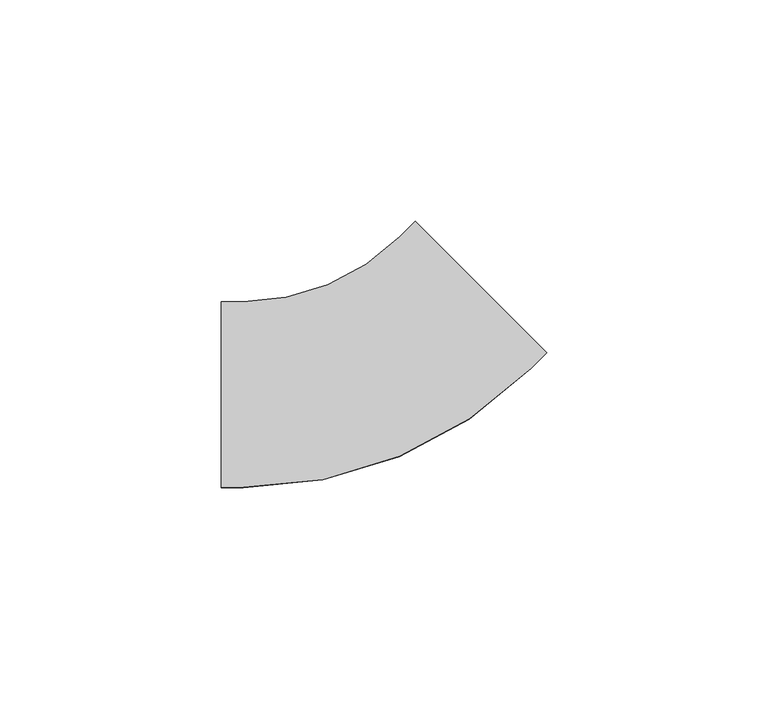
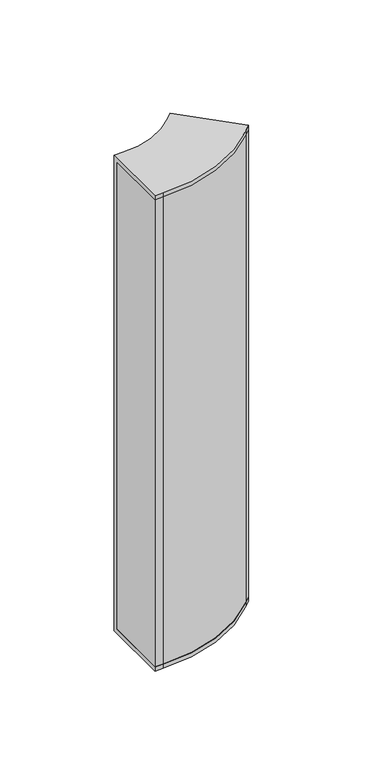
"""IFC4 building model written with IfcOpenShell, lengths in millimetres: cable carrier fitting geometry, BAKS_Vertical bend LU : LLJ_H42."""

from ifc_helpers import new_model, si_unit, point, frame, frame_2d, origin, place, context, project, spatial, polyline, circle_curve, trimmed, segment, composite_curve, outline, extrude, source, transform, mapped, element, save
from ifc_brep_helpers import plane_surface, cylinder_surface, revolved_surface, advanced_brep


def cable_carrier_fitting_68112528(model_context):
    return source(origin(), model_context, "Body", "SolidModel", [
        advanced_brep(
        [(-34.4091629, -21.0, 150.0), (-34.4091629, 21.0, 150.0), (-34.4091629, 21.0, -150.0), (-34.4091629, -21.0, -150.0), (-34.4091629, -21.0, -147.46), (-34.4091629, 18.46, -147.46), (-34.4091629, 18.46, 147.46), (-34.4091629, -21.0, 147.46), (39.1801948, 9.48171, 150.0), (39.1801948, 9.48171, 147.46), (11.2777613, 37.3841436, 147.46), (11.2777613, 37.3841436, -147.46), (39.1801948, 9.48171, -147.46), (39.1801948, 9.48171, -150.0), (9.48171, 39.1801948, -150.0), (9.48171, 39.1801948, 150.0), (-29.4091629, -21.0, 150.0), (35.6446609, 5.9461761, 150.0), (5.9461761, 35.6446609, 150.0), (-29.4091629, 21.0, 150.0), (-29.4091629, 21.0, -150.0), (5.9461761, 35.6446609, -150.0), (35.6446609, 5.9461761, -150.0), (-29.4091629, -21.0, -150.0), (-29.4091629, -21.0, -147.46), (35.6446609, 5.9461761, -147.46), (7.7422273, 33.8486097, -147.46), (-29.4091629, 18.46, -147.46), (-29.4091629, 18.46, 147.46), (7.7422273, 33.8486097, 147.46), (35.6446609, 5.9461761, 147.46), (-29.4091629, -21.0, 147.46)],
        [
            (0, 1),
            (1, 2),
            (2, 3),
            (3, 4),
            (4, 5),
            (5, 6),
            (6, 7),
            (7, 0),
            (8, 9),
            (9, 10),
            (10, 11),
            (11, 12),
            (12, 13),
            (13, 14),
            (14, 15),
            (15, 8),
            (0, 16),
            (16, 17, circle_curve(frame((-29.4091629, 71.0, 150.0), z_axis=(0.0, 0.0, 1.0), x_axis=(0.0, -1.0, 0.0)), 92.0)),
            (17, 8),
            (15, 18),
            (18, 19, circle_curve(frame((-29.4091629, 71.0, 150.0), z_axis=(0.0, 0.0, -1.0), x_axis=(0.0, -1.0, 0.0)), 50.0)),
            (19, 1),
            (19, 20),
            (20, 2),
            (20, 21, circle_curve(frame((-29.4091629, 71.0, -150.0), z_axis=(0.0, 0.0, 1.0), x_axis=(0.0, -1.0, 0.0)), 50.0)),
            (21, 14),
            (13, 22),
            (22, 23, circle_curve(frame((-29.4091629, 71.0, -150.0), z_axis=(0.0, 0.0, -1.0), x_axis=(0.0, -1.0, 0.0)), 92.0)),
            (23, 3),
            (23, 24),
            (24, 4),
            (24, 25, circle_curve(frame((-29.4091629, 71.0, -147.46), z_axis=(0.0, 0.0, 1.0), x_axis=(0.0, -1.0, 0.0)), 92.0)),
            (25, 12),
            (11, 26),
            (26, 27, circle_curve(frame((-29.4091629, 71.0, -147.46), z_axis=(0.0, 0.0, -1.0), x_axis=(0.0, -1.0, 0.0)), 52.54)),
            (27, 5),
            (27, 28),
            (28, 6),
            (28, 29, circle_curve(frame((-29.4091629, 71.0, 147.46), z_axis=(0.0, 0.0, 1.0), x_axis=(0.0, -1.0, 0.0)), 52.54)),
            (29, 10),
            (9, 30),
            (30, 31, circle_curve(frame((-29.4091629, 71.0, 147.46), z_axis=(0.0, 0.0, -1.0), x_axis=(0.0, -1.0, 0.0)), 92.0)),
            (31, 7),
            (31, 16),
            (18, 21),
            (22, 25),
            (26, 29),
            (30, 17),
        ],
        [
            plane_surface(frame((-34.4091629, 0.0, 0.0), z_axis=(-1.0, 0.0, 0.0), x_axis=(0.0, 0.0, 1.0))),
            plane_surface(frame((24.3309524, 24.3309524, 0.0), z_axis=(0.7071067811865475, 0.7071067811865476, 0.0), x_axis=(0.0, 0.0, 1.0))),
            plane_surface(frame((-34.4091629, -21.0, 150.0), z_axis=(0.0, 0.0, 1.0), x_axis=(1.0, 0.0, 0.0))),
            plane_surface(frame((-34.4091629, 21.0, 150.0), z_axis=(0.0, 1.0, 0.0), x_axis=(1.0, 0.0, 0.0))),
            plane_surface(frame((-34.4091629, 21.0, -150.0), z_axis=(0.0, 0.0, -1.0), x_axis=(1.0, 0.0, 0.0))),
            plane_surface(frame((-34.4091629, -21.0, -150.0), z_axis=(0.0, -1.0, 0.0), x_axis=(1.0, 0.0, 0.0))),
            plane_surface(frame((-34.4091629, -21.0, -147.46), z_axis=(0.0, 0.0, 1.0), x_axis=(1.0, 0.0, 0.0))),
            plane_surface(frame((-34.4091629, 18.46, -147.46), z_axis=(0.0, -1.0, 0.0), x_axis=(1.0, 0.0, 0.0))),
            plane_surface(frame((-34.4091629, 18.46, 147.46), z_axis=(0.0, 0.0, -1.0), x_axis=(1.0, 0.0, 0.0))),
            plane_surface(frame((-34.4091629, -21.0, 147.46), z_axis=(0.0, -1.0, 0.0), x_axis=(1.0, 0.0, 0.0))),
            revolved_surface(polyline([(-29.4091629, 21.0, 150.0), (-29.4091629, 21.0, -150.0)]), (-29.4091629, 71.0, 0.0), (0.0, 0.0, 1.0)),
            cylinder_surface(frame((-29.4091629, 71.0, 0.0), z_axis=(0.0, 0.0, 1.0), x_axis=(0.0, -1.0, 0.0)), 92.0),
            cylinder_surface(frame((-29.4091629, 71.0, 0.0), z_axis=(0.0, 0.0, 1.0), x_axis=(0.0, -1.0, 0.0)), 52.54),
            plane_surface(frame((5.9461761, 35.6446609, 150.0), z_axis=(-0.7071067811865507, 0.7071067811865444, 0.0), x_axis=(0.7071067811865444, 0.7071067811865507, 0.0))),
            plane_surface(frame((35.6446609, 5.9461761, -150.0), z_axis=(0.7071067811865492, -0.7071067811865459, 0.0), x_axis=(0.7071067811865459, 0.7071067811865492, 0.0))),
            plane_surface(frame((7.7422273, 33.8486097, -147.46), z_axis=(0.7071067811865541, -0.707106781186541, 0.0), x_axis=(0.707106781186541, 0.7071067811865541, 0.0))),
            plane_surface(frame((35.6446609, 5.9461761, 147.46), z_axis=(0.7071067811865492, -0.7071067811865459, 0.0), x_axis=(0.7071067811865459, 0.7071067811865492, 0.0))),
        ],
        [
            (0, [[1, 2, 3, 4, 5, 6, 7, 8]]),
            (1, [[9, 10, 11, 12, 13, 14, 15, 16]]),
            (2, [[-1, 17, 18, 19, -16, 20, 21, 22]]),
            (3, [[-2, -22, 23, 24]]),
            (4, [[-3, -24, 25, 26, -14, 27, 28, 29]]),
            (5, [[-4, -29, 30, 31]]),
            (6, [[-5, -31, 32, 33, -12, 34, 35, 36]]),
            (7, [[-6, -36, 37, 38]]),
            (8, [[-7, -38, 39, 40, -10, 41, 42, 43]]),
            (9, [[-8, -43, 44, -17]]),
            (10, [[-25, -23, -21, 45]]),
            (11, [[-32, -30, -28, 46]]),
            (12, [[-39, -37, -35, 47]]),
            (11, [[-18, -44, -42, 48]]),
            (13, [[-45, -20, -15, -26]]),
            (14, [[-46, -27, -13, -33]]),
            (15, [[-47, -34, -11, -40]]),
            (16, [[-48, -41, -9, -19]]),
        ],
    ),
        extrude(outline(composite_curve([segment(polyline([(-34.4091629, -21.0), (-34.4091629, 21.0), (-29.4091629, 21.0)]), True, "CONTINUOUS"), segment(trimmed(circle_curve(frame_2d((-29.4091629, 71.0)), 50.0), [point((-29.4091629, 21.0))], [point((5.9461761, 35.6446609))], True, "CARTESIAN"), True, "CONTINUOUS"), segment(polyline([(5.9461761, 35.6446609), (9.48171, 39.1801948), (39.1801948, 9.48171), (35.6446609, 5.9461761)]), True, "CONTINUOUS"), segment(trimmed(circle_curve(frame_2d((-29.4091629, 71.0)), 92.0), [point((35.6446609, 5.9461761))], [point((-29.4091629, -21.0))], False, "CARTESIAN"), True, "CONTINUOUS"), segment(polyline([(-29.4091629, -21.0), (-34.4091629, -21.0)]), True, "CONTINUOUS")], self_intersect=False)), frame((0.0, 0.0, -150.0), z_axis=(0.0, 0.0, 1.0), x_axis=(1.0, 0.0, 0.0)), (0.0, 0.0, 1.0), 300.0),
    ])


if __name__ == "__main__":
    model = new_model("IFC4")
    model_context = context("Model", 3, world=origin())
    ifc_project = project(units=[si_unit("LENGTHUNIT", "METRE", prefix="MILLI")], contexts=[model_context])
    site = spatial("IfcSite", under=ifc_project)
    building = spatial("IfcBuilding", under=site)
    placement = place(None, origin())
    cable_carrier_fitting_shape = cable_carrier_fitting_68112528(model_context)
    element("IfcCableCarrierFitting", 1, ObjectType="BAKS_Vertical bend LU : LLJ_H42", at=placement, inside=building, context=model_context, shape_type="MappedRepresentation", body=[
        mapped(cable_carrier_fitting_shape, transform((0.0, 0.0, 0.0), x_axis=(1.0, 0.0, 0.0), y_axis=(0.0, 1.0, 0.0), z_axis=(0.0, 0.0, 1.0))),
    ])
    save(model, "model.ifc")
